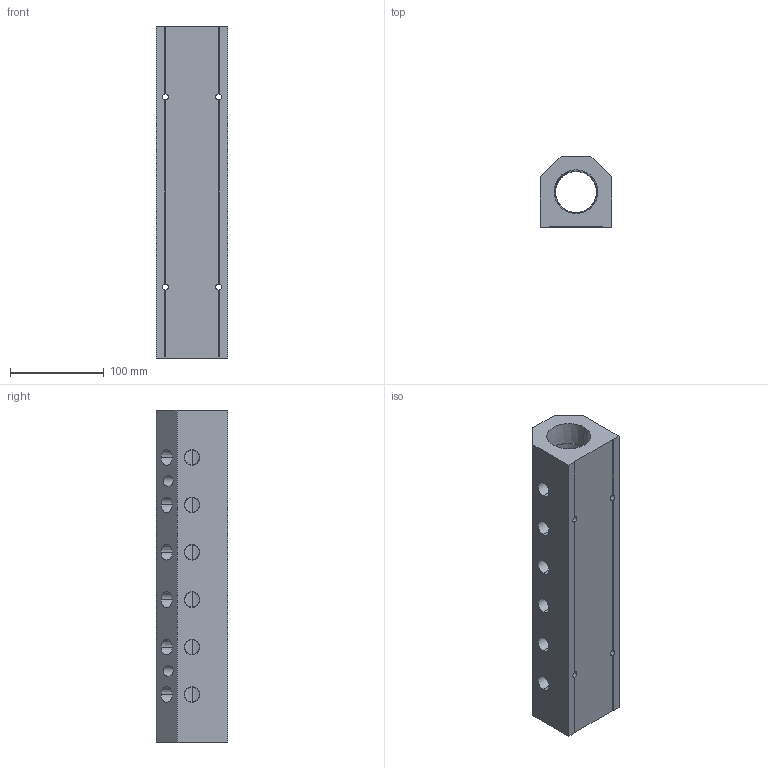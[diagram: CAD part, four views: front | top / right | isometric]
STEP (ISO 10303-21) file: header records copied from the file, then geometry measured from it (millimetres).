
FILE_DESCRIPTION (( 'STEP AP214' ), '1' );
FILE_NAME ('ALM6AB-N6N24-355R.step', '2022-02-07T07:58:04', ( '' ), ( '' ), 'SwSTEP 2.0', 'SolidWorks 2020', '' );
FILE_SCHEMA (( 'AUTOMOTIVE_DESIGN' ));
Length unit declared in the file: millimetre
Products named in the file (1): ALM6AB-N6N24-355R
Bounding box: 76.2 x 76.2 x 355 mm (x, y, z)
Volume: 1278849.2 mm3; surface area: 166541.7 mm2
Topology: 1 solids, 1 shells, 329 faces, 880 edges, 580 vertices
Faces by surface type: plane 212, bspline 71, cone 28, cylinder 18
Entity records: 18682 total; most frequent: CARTESIAN_POINT 7809, ORIENTED_EDGE 1760, DIRECTION 1276, EDGE_CURVE 880, LINE 638, VECTOR 638, VERTEX_POINT 580, EDGE_LOOP 390
